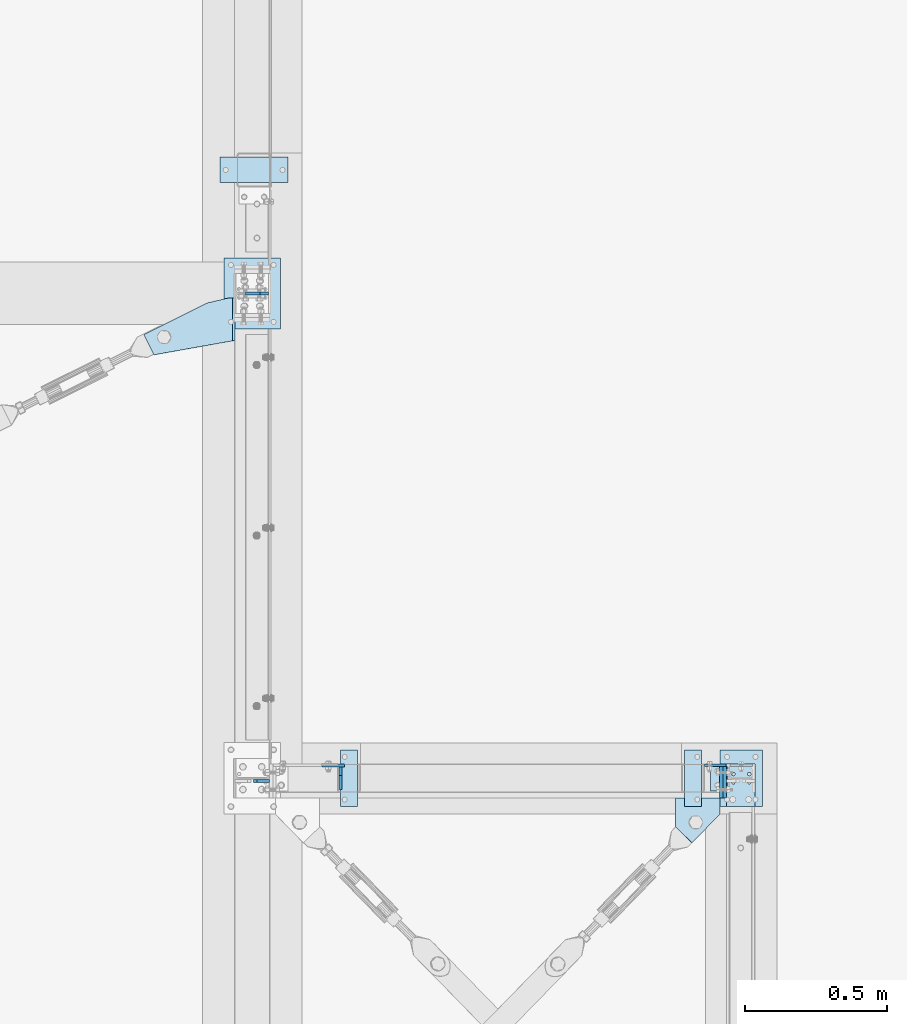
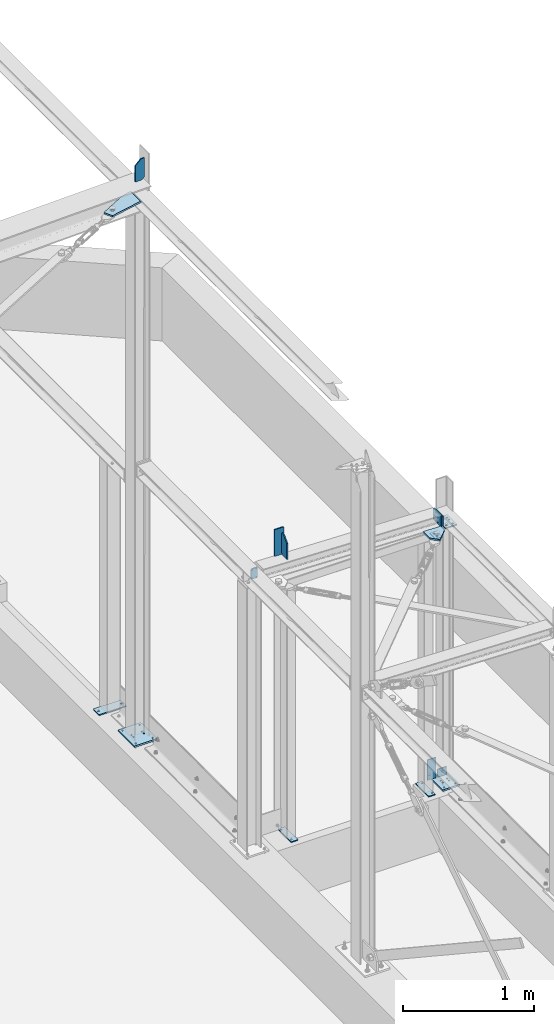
# One storey, part 64 of 476: 17 plates, 56 openings.
"""IFC2X3 building model written with IfcOpenShell, lengths in millimetres."""

from ifc_helpers import new_model, entity, si_unit, converted_unit, point, frame, frame_2d, origin, origin_with_axes, origin_2d_with_axis, place, context, project, spatial, polyline, circle_curve, line_curve, trimmed, segment, composite_curve, circle, outline, extrude, material, layer, layer_set, element, save


model = new_model("IFC2X3")

# Units and contexts
model_context = context("Model", 3, precision=1e-09, world=origin_with_axes())
ifc_project = project(units=[si_unit("LENGTHUNIT", "METRE", prefix="MILLI"), si_unit("AREAUNIT", "SQUARE_METRE"), si_unit("VOLUMEUNIT", "CUBIC_METRE"), converted_unit("PLANEANGLEUNIT", "DEGREE", entity("IfcPlaneAngleMeasure", 0.01745329), si_unit("PLANEANGLEUNIT", "RADIAN"), dimensions=[0, 0, 0, 0, 0, 0, 0])], contexts=[model_context])

# Site, building, storey
site_placement = place(None, origin_with_axes())
site = spatial("IfcSite", under=ifc_project, at=site_placement, Name="mKR Teilneubau & Sanierung BA1 - Ostfildern", CompositionType="ELEMENT")
building_placement = place(site_placement, origin_with_axes())
building = spatial("IfcBuilding", under=site, at=building_placement, Name="Struktur 1", CompositionType="ELEMENT")
storey_placement = place(building_placement, origin_with_axes())
storey = spatial("IfcBuildingStorey", under=building, at=storey_placement, Name="Default Storey", CompositionType="ELEMENT", Elevation=0.0)

# Plate, openings
ifc_material = material(Name="S235JR")
ifc_layer_1 = layer(ifc_material, 15.0)
ifc_layer_set_1 = layer_set([ifc_layer_1], Name="S235JR")
plate_1_placement = place(None, frame((21903.923471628, -2528.919954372, 5627.15896923), z_axis=(-0.030019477, 0.0, 0.999549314), x_axis=(-0.999549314, 0.0, -0.030019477)))
plate_1 = element("IfcPlate", 1, at=plate_1_placement, inside=storey, material=ifc_layer_set_1, Name="-", ObjectType="-", context=model_context, shape_type="SweptSolid", body=[
    extrude(outline(polyline([(0.0, 0.0), (60.928430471, 0.0), (320.162470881, 129.005250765), (284.520294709, 200.626722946), (1e-09, 150.0), (0.0, 0.0)])), origin_with_axes(), (0.0, 0.0, -1.0), 15.0),
])
opening_1_placement = place(plate_1_placement, frame((0.0, -0.001, 0.0), z_axis=(0.0, 1.0, 0.0), x_axis=(1.0, 0.0, 0.0)))
element("IfcOpeningElement", 2, at=opening_1_placement, cuts=plate_1, ObjectType="Opening", context=model_context, shape_type="SweptSolid", body=[
    extrude(outline(polyline([(0.0, 0.0), (8.0, 0.0), (0.0, 8.0), (0.0, 0.0)])), origin(), (0.0, 0.0, 1.0), 151.445496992),
])
opening_2_placement = place(plate_1_placement, frame((60.928430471, 0.0, 0.01), z_axis=(0.0, 0.0, 1.0), x_axis=(0.895270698, 0.445522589, 0.0)))
element("IfcOpeningElement", 3, at=opening_2_placement, cuts=plate_1, ObjectType="Opening", context=model_context, shape_type="SweptSolid", body=[
    extrude(outline(composite_curve([segment(trimmed(line_curve((0.0, 0.0), (1.0, 0.0), 41.13737061), [point((0.0, 0.0))], [point((41.13737061, 0.0))], True, "CARTESIAN"), True, "CONTINUOUS"), segment(trimmed(circle_curve(frame_2d((41.13737061, 175.0), x_axis=(-1.0, 0.0)), 175.0), [point((41.13737061, 0.0))], [point((-36.829082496, 18.327627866))], False, "CARTESIAN"), True, "CONTINUOUS"), segment(trimmed(line_curve((-36.829082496, 18.327627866), (0.895270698, -0.445522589), 41.13737061), [point((-36.829082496, 18.327627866))], [point((0.0, 0.0))], True, "CARTESIAN"), True, "CONTINUOUS")], self_intersect=False)), origin(), (0.0, 0.0, -1.0), 15.02),
])
opening_3_placement = place(plate_1_placement, frame((248.62761309, 138.086147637, -15.499690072), z_axis=(2.2474e-05, 0.0, 1.0), x_axis=(0.895271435, 0.445521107, -2.0121e-05)))
element("IfcOpeningElement", 4, at=opening_3_placement, cuts=plate_1, ObjectType="Opening", context=model_context, shape_type="SweptSolid", body=[
    extrude(circle(Radius=14.501, at=origin_2d_with_axis()), origin(), (0.0, 0.0, 1.0), 16.000000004),
])

plate_2_placement = place(None, frame((23454.614413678, -4288.67387897, 2967.690873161), z_axis=(-0.029057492, 0.0, -0.999577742), x_axis=(0.999577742, 0.0, -0.029057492)))
plate_2 = element("IfcPlate", 5, at=plate_2_placement, inside=storey, material=ifc_layer_set_1, Name="-", ObjectType="-", context=model_context, shape_type="SweptSolid", body=[
    extrude(outline(polyline([(0.0, 0.0), (155.058825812, 0.0), (155.058825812, 57.239054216), (57.223526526, 157.380225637), (0.0, 101.474340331), (0.0, 0.0)])), origin_with_axes(), (0.0, 0.0, -1.0), 15.0),
])
opening_4_placement = place(plate_2_placement, frame((155.059825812, 0.0, 0.0), z_axis=(-1.0, 0.0, 0.0), x_axis=(0.0, 1.0, 0.0)))
element("IfcOpeningElement", 6, at=opening_4_placement, cuts=plate_2, ObjectType="Opening", context=model_context, shape_type="SweptSolid", body=[
    extrude(outline(polyline([(0.0, 0.0), (8.0, 0.0), (0.0, 8.0), (0.0, 0.0)])), origin(), (0.0, 0.0, 1.0), 155.080825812),
])
opening_5_placement = place(plate_2_placement, frame((70.610420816, 70.850528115, 0.5), z_axis=(0.0, 0.0, 1.0), x_axis=(1.0, 0.0, 0.0)))
element("IfcOpeningElement", 7, at=opening_5_placement, cuts=plate_2, ObjectType="Opening", context=model_context, shape_type="SweptSolid", body=[
    extrude(circle(Radius=14.501, at=frame_2d((0.0, 14.501), x_axis=(1.0, 0.0))), origin(), (0.0, 0.0, -1.0), 16.0),
])

ifc_layer_2 = layer(ifc_material, 10.0)
ifc_layer_set_2 = layer_set([ifc_layer_2], Name="S235JR")
plate_3_placement = place(None, frame((21942.108764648, -2508.420954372, 5888.306606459), z_axis=(0.0, 1.0, 0.0), x_axis=(1.0, 0.0, 0.0)))
plate_3 = element("IfcPlate", 8, at=plate_3_placement, inside=storey, material=ifc_layer_set_2, Name="-", ObjectType="-", context=model_context, shape_type="SweptSolid", body=[
    extrude(outline(polyline([(0.0, 0.0), (80.0, 0.0), (80.0, 197.595559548), (0.0, 200.0), (0.0, 0.0)])), origin_with_axes(), (0.0, 0.0, -1.0), 10.0),
])
opening_6_placement = place(plate_3_placement, frame((0.0, 0.0, 0.01), z_axis=(0.0, 0.0, 1.0), x_axis=(1.0, 0.0, 0.0)))
element("IfcOpeningElement", 9, at=opening_6_placement, cuts=plate_3, ObjectType="Opening", context=model_context, shape_type="SweptSolid", body=[
    extrude(outline(polyline([(0.0, 0.0), (50.0, 0.0), (0.0, 50.0), (0.0, 0.0)])), origin(), (0.0, 0.0, -1.0), 10.02),
])
opening_7_placement = place(plate_3_placement, frame((80.0, 197.595559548, 0.01), z_axis=(0.0, 0.0, 1.0), x_axis=(-0.999548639, 0.03004194, 0.0)))
element("IfcOpeningElement", 10, at=opening_7_placement, cuts=plate_3, ObjectType="Opening", context=model_context, shape_type="SweptSolid", body=[
    extrude(outline(polyline([(0.0, 0.0), (20.0, 0.0), (-0.600838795, 19.990972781), (0.0, 0.0)])), origin(), (0.0, 0.0, -1.0), 10.02),
])

plate_4_placement = place(None, frame((22270.607764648, -4258.67387897, 3316.157828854), z_axis=(-1.0, 0.0, 0.0), x_axis=(0.0, 1.0, 0.0)))
plate_4 = element("IfcPlate", 11, at=plate_4_placement, inside=storey, material=ifc_layer_set_2, Name="-", ObjectType="-", context=model_context, shape_type="SweptSolid", body=[
    extrude(outline(polyline([(0.0, 0.0), (80.0, 0.0), (80.0, 200.0), (0.0, 200.0), (0.0, 0.0)])), origin_with_axes(), (0.0, 0.0, -1.0), 10.0),
])
opening_8_placement = place(plate_4_placement, frame((0.0, 0.0, 0.01), z_axis=(0.0, 0.0, 1.0), x_axis=(1.0, 0.0, 0.0)))
element("IfcOpeningElement", 12, at=opening_8_placement, cuts=plate_4, ObjectType="Opening", context=model_context, shape_type="SweptSolid", body=[
    extrude(outline(polyline([(0.0, 0.0), (50.0, 0.0), (0.0, 50.0), (0.0, 0.0)])), origin(), (0.0, 0.0, -1.0), 10.02),
])
opening_9_placement = place(plate_4_placement, frame((80.0, 200.0, 0.01), z_axis=(0.0, 0.0, 1.0), x_axis=(-1.0, 0.0, 0.0)))
element("IfcOpeningElement", 13, at=opening_9_placement, cuts=plate_4, ObjectType="Opening", context=model_context, shape_type="SweptSolid", body=[
    extrude(outline(polyline([(0.0, 0.0), (20.0, 0.0), (0.0, 20.0), (0.0, 0.0)])), origin(), (0.0, 0.0, -1.0), 10.02),
])

plate_5_placement = place(None, frame((22335.607764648, -4118.67387897, 525.0), z_axis=(0.0, 0.0, 1.0), x_axis=(-1.0, 0.0, 0.0)))
plate_5 = element("IfcPlate", 14, at=plate_5_placement, inside=storey, material=ifc_layer_set_2, Name="Baseplate", ObjectType="Baseplate", context=model_context, shape_type="SweptSolid", body=[
    extrude(outline(polyline([(0.0, 0.0), (60.0, 0.0), (60.0, 200.0), (0.0, 200.0), (0.0, 0.0)])), origin_with_axes(), (0.0, 0.0, -1.0), 10.0),
])
opening_10_placement = place(plate_5_placement, frame((38.999, 25.0, -10.5), z_axis=(0.0, 0.0, -1.0), x_axis=(-1.0, 0.0, 0.0)))
element("IfcOpeningElement", 15, at=opening_10_placement, cuts=plate_5, ObjectType="Opening", context=model_context, shape_type="SweptSolid", body=[
    extrude(circle(Radius=6.001, at=frame_2d((-6.001, 0.0), x_axis=(1.0, 0.0))), origin(), (0.0, 0.0, -1.0), 11.0),
])
opening_11_placement = place(plate_5_placement, frame((38.999, 175.0, -10.5), z_axis=(0.0, 0.0, -1.0), x_axis=(-1.0, 0.0, 0.0)))
element("IfcOpeningElement", 16, at=opening_11_placement, cuts=plate_5, ObjectType="Opening", context=model_context, shape_type="SweptSolid", body=[
    extrude(circle(Radius=6.001, at=frame_2d((-6.001, 0.0), x_axis=(1.0, 0.0))), origin(), (0.0, 0.0, -1.0), 11.0),
])

ifc_layer_3 = layer(ifc_material, 12.0)
ifc_layer_set_3 = layer_set([ifc_layer_3], Name="S235JR")
plate_6_placement = place(None, frame((23683.608764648, -4243.67387897, 2958.0), z_axis=(0.0, 0.0, 1.0), x_axis=(-1.0, 0.0, 0.0)))
plate_6 = element("IfcPlate", 17, at=plate_6_placement, inside=storey, material=ifc_layer_set_3, Name="Endplate", ObjectType="Endplate", context=model_context, shape_type="SweptSolid", body=[
    extrude(outline(polyline([(-50.0, -75.0), (50.0, -75.0), (50.0, 75.0), (-50.0, 75.0), (-50.0, -75.0)])), origin_with_axes(), (0.0, 0.0, 1.0), 12.0),
])
opening_12_placement = place(plate_6_placement, frame((26.0, -39.5, 12.5), z_axis=(0.0, 0.0, -1.0), x_axis=(1.0, 0.0, 0.0)))
element("IfcOpeningElement", 18, at=opening_12_placement, cuts=plate_6, ObjectType="Opening", context=model_context, shape_type="SweptSolid", body=[
    extrude(circle(Radius=6.001, at=origin_2d_with_axis()), origin(), (0.0, 0.0, 1.0), 13.0),
])
opening_13_placement = place(plate_6_placement, frame((-30.0, -39.5, 12.5), z_axis=(0.0, 0.0, -1.0), x_axis=(1.0, 0.0, 0.0)))
element("IfcOpeningElement", 19, at=opening_13_placement, cuts=plate_6, ObjectType="Opening", context=model_context, shape_type="SweptSolid", body=[
    extrude(circle(Radius=6.001, at=origin_2d_with_axis()), origin(), (0.0, 0.0, 1.0), 13.0),
])
opening_14_placement = place(plate_6_placement, frame((-30.0, -10.5, 12.5), z_axis=(0.0, 0.0, -1.0), x_axis=(1.0, 0.0, 0.0)))
element("IfcOpeningElement", 20, at=opening_14_placement, cuts=plate_6, ObjectType="Opening", context=model_context, shape_type="SweptSolid", body=[
    extrude(circle(Radius=6.001, at=origin_2d_with_axis()), origin(), (0.0, 0.0, 1.0), 13.0),
])
opening_15_placement = place(plate_6_placement, frame((26.0, -10.5, 12.5), z_axis=(0.0, 0.0, -1.0), x_axis=(1.0, 0.0, 0.0)))
element("IfcOpeningElement", 21, at=opening_15_placement, cuts=plate_6, ObjectType="Opening", context=model_context, shape_type="SweptSolid", body=[
    extrude(circle(Radius=6.001, at=origin_2d_with_axis()), origin(), (0.0, 0.0, 1.0), 13.0),
])
opening_16_placement = place(plate_6_placement, frame((-50.0, 25.001, 0.0), z_axis=(0.0, -1.0, 0.0), x_axis=(1.0, 0.0, 0.0)))
element("IfcOpeningElement", 22, at=opening_16_placement, cuts=plate_6, ObjectType="Opening", context=model_context, shape_type="SweptSolid", body=[
    extrude(outline(polyline([(0.0, 0.0), (4.0, 0.0), (0.0, 4.0), (0.0, 0.0)])), origin(), (0.0, 0.0, 1.0), 100.022),
])
opening_17_placement = place(plate_6_placement, frame((28.0, 42.999, -0.5), z_axis=(0.0, 0.0, -1.0), x_axis=(-1.0, 0.0, 0.0)))
element("IfcOpeningElement", 23, at=opening_17_placement, cuts=plate_6, ObjectType="Opening", context=model_context, shape_type="SweptSolid", body=[
    extrude(circle(Radius=7.001, at=frame_2d((0.0, 7.001), x_axis=(1.0, 0.0))), origin(), (0.0, 0.0, -1.0), 13.0),
])
opening_18_placement = place(plate_6_placement, frame((-28.0, 42.999, -0.5), z_axis=(0.0, 0.0, -1.0), x_axis=(-1.0, 0.0, 0.0)))
element("IfcOpeningElement", 24, at=opening_18_placement, cuts=plate_6, ObjectType="Opening", context=model_context, shape_type="SweptSolid", body=[
    extrude(circle(Radius=7.001, at=frame_2d((0.0, 7.001), x_axis=(1.0, 0.0))), origin(), (0.0, 0.0, -1.0), 13.0),
])

# Plate, opening
ifc_layer_4 = layer(ifc_material, 8.0)
ifc_layer_set_4 = layer_set([ifc_layer_4], Name="S235JR")
plate_7_placement = place(None, frame((23594.109264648, -4176.67387897, 655.0), z_axis=(0.0, 1.0, 0.0), x_axis=(-1.0, 0.0, 0.0)))
plate_7 = element("IfcPlate", 25, at=plate_7_placement, inside=storey, material=ifc_layer_set_4, Name="-", ObjectType="-", context=model_context, shape_type="SweptSolid", body=[
    extrude(outline(polyline([(-38.4995, -95.0), (38.4995, -95.0), (38.4995, 95.0), (-38.4995, 95.0), (-38.4995, -95.0)])), origin_with_axes(), (0.0, 0.0, 1.0), 8.0),
])
opening_19_placement = place(plate_7_placement, frame((20.0, -47.0, -0.5), z_axis=(0.0, 0.0, 1.0), x_axis=(1.0, 0.0, 0.0)))
element("IfcOpeningElement", 26, at=opening_19_placement, cuts=plate_7, ObjectType="Opening", context=model_context, shape_type="SweptSolid", body=[
    extrude(circle(Radius=7.001, at=origin_2d_with_axis()), origin(), (0.0, 0.0, 1.0), 9.0),
])

# Plate
plate_8_placement = place(None, frame((22290.607764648, -4168.67387897, 3365.576433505), z_axis=(0.0, -1.0, 0.0), x_axis=(-1.0, 0.0, 0.0)))
element("IfcPlate", 27, at=plate_8_placement, inside=storey, material=ifc_layer_set_2, Name="-", ObjectType="-", context=model_context, shape_type="SweptSolid", body=[
    extrude(outline(polyline([(0.0, 0.0), (80.0, 0.0), (80.0, 247.674418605), (0.0, 250.0), (0.0, 0.0)])), origin_with_axes(), (0.0, 0.0, 1.0), 10.0),
])

# Plate, opening
plate_9_placement = place(None, frame((23685.608764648, -4176.67387897, 1749.0), z_axis=(0.0, 1.0, 0.0), x_axis=(-1.0, 0.0, 0.0)))
plate_9 = element("IfcPlate", 28, at=plate_9_placement, inside=storey, material=ifc_layer_set_4, Name="-", ObjectType="-", context=model_context, shape_type="SweptSolid", body=[
    extrude(outline(polyline([(-39.0, -1116.0), (-39.0, -1189.0), (39.0, -1189.0), (39.0, -1116.0), (-39.0, -1116.0)])), origin_with_axes(), (0.0, 0.0, 1.0), 8.0),
])
opening_20_placement = place(plate_9_placement, frame((0.0, -1141.0, -0.5), z_axis=(0.0, 0.0, 1.0), x_axis=(1.0, 0.0, 0.0)))
element("IfcOpeningElement", 29, at=opening_20_placement, cuts=plate_9, ObjectType="Opening", context=model_context, shape_type="SweptSolid", body=[
    extrude(circle(Radius=7.001, at=origin_2d_with_axis()), origin(), (0.0, 0.0, 1.0), 9.0),
])

# Plate, openings
plate_10_placement = place(None, frame((22065.608764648, -2388.420954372, 540.0), z_axis=(0.0, 0.0, -1.0), x_axis=(0.0, -1.0, 0.0)))
plate_10 = element("IfcPlate", 30, at=plate_10_placement, inside=storey, material=ifc_layer_set_1, Name="Baseplate", ObjectType="Baseplate", context=model_context, shape_type="SweptSolid", body=[
    extrude(outline(polyline([(0.0, 0.0), (250.0, 0.0), (250.0, 200.0), (0.0, 200.0), (0.0, 0.0)])), origin_with_axes(), (0.0, 0.0, 1.0), 15.0),
])
opening_21_placement = place(plate_10_placement, frame((110.25, 146.0, 15.5), z_axis=(0.0, 0.0, -1.0), x_axis=(0.0, -1.0, 0.0)))
element("IfcOpeningElement", 31, at=opening_21_placement, cuts=plate_10, ObjectType="Opening", context=model_context, shape_type="SweptSolid", body=[
    extrude(circle(Radius=6.001, at=origin_2d_with_axis()), origin(), (0.0, 0.0, 1.0), 16.0),
])
opening_22_placement = place(plate_10_placement, frame((110.25, 54.0, 15.5), z_axis=(0.0, 0.0, -1.0), x_axis=(0.0, -1.0, 0.0)))
element("IfcOpeningElement", 32, at=opening_22_placement, cuts=plate_10, ObjectType="Opening", context=model_context, shape_type="SweptSolid", body=[
    extrude(circle(Radius=6.001, at=origin_2d_with_axis()), origin(), (0.0, 0.0, 1.0), 16.0),
])
opening_23_placement = place(plate_10_placement, frame((139.75, 54.0, 15.5), z_axis=(0.0, 0.0, -1.0), x_axis=(0.0, -1.0, 0.0)))
element("IfcOpeningElement", 33, at=opening_23_placement, cuts=plate_10, ObjectType="Opening", context=model_context, shape_type="SweptSolid", body=[
    extrude(circle(Radius=6.001, at=origin_2d_with_axis()), origin(), (0.0, 0.0, 1.0), 16.0),
])
opening_24_placement = place(plate_10_placement, frame((139.75, 146.0, 15.5), z_axis=(0.0, 0.0, -1.0), x_axis=(0.0, -1.0, 0.0)))
element("IfcOpeningElement", 34, at=opening_24_placement, cuts=plate_10, ObjectType="Opening", context=model_context, shape_type="SweptSolid", body=[
    extrude(circle(Radius=6.001, at=origin_2d_with_axis()), origin(), (0.0, 0.0, 1.0), 16.0),
])
opening_25_placement = place(plate_10_placement, frame((125.0, 100.0, 15.5), z_axis=(0.0, 0.0, -1.0), x_axis=(1.0, 0.0, 0.0)))
element("IfcOpeningElement", 35, at=opening_25_placement, cuts=plate_10, ObjectType="Opening", context=model_context, shape_type="SweptSolid", body=[
    extrude(circle(Radius=6.001, at=frame_2d((100.0, 75.0), x_axis=(1.0, 0.0))), origin(), (0.0, 0.0, 1.0), 16.0),
])
opening_26_placement = place(plate_10_placement, frame((125.0, 100.0, 15.5), z_axis=(0.0, 0.0, -1.0), x_axis=(1.0, 0.0, 0.0)))
element("IfcOpeningElement", 36, at=opening_26_placement, cuts=plate_10, ObjectType="Opening", context=model_context, shape_type="SweptSolid", body=[
    extrude(circle(Radius=6.001, at=frame_2d((-100.0, 75.0), x_axis=(1.0, 0.0))), origin(), (0.0, 0.0, 1.0), 16.0),
])
opening_27_placement = place(plate_10_placement, frame((125.0, 100.0, 15.5), z_axis=(0.0, 0.0, -1.0), x_axis=(1.0, 0.0, 0.0)))
element("IfcOpeningElement", 37, at=opening_27_placement, cuts=plate_10, ObjectType="Opening", context=model_context, shape_type="SweptSolid", body=[
    extrude(circle(Radius=6.001, at=frame_2d((100.0, -75.0), x_axis=(1.0, 0.0))), origin(), (0.0, 0.0, 1.0), 16.0),
])
opening_28_placement = place(plate_10_placement, frame((125.0, 100.0, 15.5), z_axis=(0.0, 0.0, -1.0), x_axis=(1.0, 0.0, 0.0)))
element("IfcOpeningElement", 38, at=opening_28_placement, cuts=plate_10, ObjectType="Opening", context=model_context, shape_type="SweptSolid", body=[
    extrude(circle(Radius=6.001, at=frame_2d((-100.0, -75.0), x_axis=(1.0, 0.0))), origin(), (0.0, 0.0, 1.0), 16.0),
])

plate_11_placement = place(None, frame((23607.608764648, -4218.67387897, 2845.0), z_axis=(0.0, 0.0, 1.0), x_axis=(-1.0, 0.0, 0.0)))
plate_11 = element("IfcPlate", 39, at=plate_11_placement, inside=storey, material=ifc_layer_set_2, Name="-", ObjectType="-", context=model_context, shape_type="SweptSolid", body=[
    extrude(outline(polyline([(-30.0, -45.0), (30.0, -45.0), (30.0, 45.0), (-30.0, 45.0), (-30.0, -45.0)])), origin_with_axes(), (0.0, 0.0, 1.0), 10.0),
])
opening_29_placement = place(plate_11_placement, frame((5.0, 0.0, -0.5), z_axis=(0.0, 0.0, 1.0), x_axis=(1.0, 0.0, 0.0)))
element("IfcOpeningElement", 40, at=opening_29_placement, cuts=plate_11, ObjectType="Opening", context=model_context, shape_type="SweptSolid", body=[
    extrude(circle(Radius=7.001, at=frame_2d((0.0, 25.0), x_axis=(1.0, 0.0))), origin(), (0.0, 0.0, 1.0), 11.0),
])
opening_30_placement = place(plate_11_placement, frame((5.0, 0.0, -0.5), z_axis=(0.0, 0.0, 1.0), x_axis=(1.0, 0.0, 0.0)))
element("IfcOpeningElement", 41, at=opening_30_placement, cuts=plate_11, ObjectType="Opening", context=model_context, shape_type="SweptSolid", body=[
    extrude(circle(Radius=7.001, at=frame_2d((0.0, -25.0), x_axis=(1.0, 0.0))), origin(), (0.0, 0.0, 1.0), 11.0),
])

plate_12_placement = place(None, frame((23485.609764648, -4118.67387897, 525.0), z_axis=(0.0, 0.0, -1.0), x_axis=(1.0, 0.0, 0.0)))
plate_12 = element("IfcPlate", 42, at=plate_12_placement, inside=storey, material=ifc_layer_set_2, Name="Baseplate", ObjectType="Baseplate", context=model_context, shape_type="SweptSolid", body=[
    extrude(outline(polyline([(0.0, 0.0), (60.0, 0.0), (60.0, 200.0), (0.0, 200.0), (0.0, 0.0)])), origin_with_axes(), (0.0, 0.0, 1.0), 10.0),
])
opening_31_placement = place(plate_12_placement, frame((45.0, 100.0, 10.5), z_axis=(0.0, 0.0, -1.0), x_axis=(1.0, 0.0, 0.0)))
element("IfcOpeningElement", 43, at=opening_31_placement, cuts=plate_12, ObjectType="Opening", context=model_context, shape_type="SweptSolid", body=[
    extrude(circle(Radius=6.001, at=frame_2d((0.0, 75.0), x_axis=(1.0, 0.0))), origin(), (0.0, 0.0, 1.0), 11.0),
])
opening_32_placement = place(plate_12_placement, frame((45.0, 100.0, 10.5), z_axis=(0.0, 0.0, -1.0), x_axis=(1.0, 0.0, 0.0)))
element("IfcOpeningElement", 44, at=opening_32_placement, cuts=plate_12, ObjectType="Opening", context=model_context, shape_type="SweptSolid", body=[
    extrude(circle(Radius=6.001, at=frame_2d((0.0, -75.0), x_axis=(1.0, 0.0))), origin(), (0.0, 0.0, 1.0), 11.0),
])

plate_13_placement = place(None, frame((22092.108734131, -2034.104698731, 525.0), z_axis=(0.0, 0.0, -1.0), x_axis=(0.0, -1.0, 0.0)))
plate_13 = element("IfcPlate", 45, at=plate_13_placement, inside=storey, material=ifc_layer_set_2, Name="Baseplate", ObjectType="Baseplate", context=model_context, shape_type="SweptSolid", body=[
    extrude(outline(polyline([(0.0, 0.0), (90.0, 0.0), (90.0, 240.0), (0.0, 240.0), (0.0, 0.0)])), origin_with_axes(), (0.0, 0.0, 1.0), 10.0),
])
opening_33_placement = place(plate_13_placement, frame((45.0, 120.0, 10.5), z_axis=(0.0, 0.0, -1.0), x_axis=(1.0, 0.0, 0.0)))
element("IfcOpeningElement", 46, at=opening_33_placement, cuts=plate_13, ObjectType="Opening", context=model_context, shape_type="SweptSolid", body=[
    extrude(circle(Radius=7.001, at=frame_2d((0.0, 100.0), x_axis=(1.0, 0.0))), origin(), (0.0, 0.0, 1.0), 11.0),
])
opening_34_placement = place(plate_13_placement, frame((45.0, 120.0, 10.5), z_axis=(0.0, 0.0, -1.0), x_axis=(1.0, 0.0, 0.0)))
element("IfcOpeningElement", 47, at=opening_34_placement, cuts=plate_13, ObjectType="Opening", context=model_context, shape_type="SweptSolid", body=[
    extrude(circle(Radius=7.001, at=frame_2d((0.0, -100.0), x_axis=(1.0, 0.0))), origin(), (0.0, 0.0, 1.0), 11.0),
])

plate_14_placement = place(None, frame((23760.608764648, -4118.67387897, 540.0), z_axis=(0.0, 0.0, -1.0), x_axis=(0.0, -1.0, 0.0)))
plate_14 = element("IfcPlate", 48, at=plate_14_placement, inside=storey, material=ifc_layer_set_1, Name="Baseplate", ObjectType="Baseplate", context=model_context, shape_type="SweptSolid", body=[
    extrude(outline(polyline([(0.0, 0.0), (200.0, 0.0), (200.0, 150.0), (0.0, 150.0), (0.0, 0.0)])), origin_with_axes(), (0.0, 0.0, 1.0), 15.0),
])
opening_35_placement = place(plate_14_placement, frame((85.5, 103.0, 15.5), z_axis=(0.0, 0.0, -1.0), x_axis=(0.0, -1.0, 0.0)))
element("IfcOpeningElement", 49, at=opening_35_placement, cuts=plate_14, ObjectType="Opening", context=model_context, shape_type="SweptSolid", body=[
    extrude(circle(Radius=6.001, at=origin_2d_with_axis()), origin(), (0.0, 0.0, 1.0), 16.0),
])
opening_36_placement = place(plate_14_placement, frame((85.5, 47.0, 15.5), z_axis=(0.0, 0.0, -1.0), x_axis=(0.0, -1.0, 0.0)))
element("IfcOpeningElement", 50, at=opening_36_placement, cuts=plate_14, ObjectType="Opening", context=model_context, shape_type="SweptSolid", body=[
    extrude(circle(Radius=6.001, at=origin_2d_with_axis()), origin(), (0.0, 0.0, 1.0), 16.0),
])
opening_37_placement = place(plate_14_placement, frame((114.5, 47.0, 15.5), z_axis=(0.0, 0.0, -1.0), x_axis=(0.0, -1.0, 0.0)))
element("IfcOpeningElement", 51, at=opening_37_placement, cuts=plate_14, ObjectType="Opening", context=model_context, shape_type="SweptSolid", body=[
    extrude(circle(Radius=6.001, at=origin_2d_with_axis()), origin(), (0.0, 0.0, 1.0), 16.0),
])
opening_38_placement = place(plate_14_placement, frame((114.5, 103.0, 15.5), z_axis=(0.0, 0.0, -1.0), x_axis=(0.0, -1.0, 0.0)))
element("IfcOpeningElement", 52, at=opening_38_placement, cuts=plate_14, ObjectType="Opening", context=model_context, shape_type="SweptSolid", body=[
    extrude(circle(Radius=6.001, at=origin_2d_with_axis()), origin(), (0.0, 0.0, 1.0), 16.0),
])
opening_39_placement = place(plate_14_placement, frame((100.0, 75.0, 15.5), z_axis=(0.0, 0.0, -1.0), x_axis=(1.0, 0.0, 0.0)))
element("IfcOpeningElement", 53, at=opening_39_placement, cuts=plate_14, ObjectType="Opening", context=model_context, shape_type="SweptSolid", body=[
    extrude(circle(Radius=6.001, at=frame_2d((75.0, 50.0), x_axis=(1.0, 0.0))), origin(), (0.0, 0.0, 1.0), 16.0),
])
opening_40_placement = place(plate_14_placement, frame((100.0, 75.0, 15.5), z_axis=(0.0, 0.0, -1.0), x_axis=(1.0, 0.0, 0.0)))
element("IfcOpeningElement", 54, at=opening_40_placement, cuts=plate_14, ObjectType="Opening", context=model_context, shape_type="SweptSolid", body=[
    extrude(circle(Radius=6.001, at=frame_2d((-75.0, 50.0), x_axis=(1.0, 0.0))), origin(), (0.0, 0.0, 1.0), 16.0),
])
opening_41_placement = place(plate_14_placement, frame((100.0, 75.0, 15.5), z_axis=(0.0, 0.0, -1.0), x_axis=(1.0, 0.0, 0.0)))
element("IfcOpeningElement", 55, at=opening_41_placement, cuts=plate_14, ObjectType="Opening", context=model_context, shape_type="SweptSolid", body=[
    extrude(circle(Radius=6.001, at=frame_2d((75.0, -50.0), x_axis=(1.0, 0.0))), origin(), (0.0, 0.0, 1.0), 16.0),
])
opening_42_placement = place(plate_14_placement, frame((100.0, 75.0, 15.5), z_axis=(0.0, 0.0, -1.0), x_axis=(1.0, 0.0, 0.0)))
element("IfcOpeningElement", 56, at=opening_42_placement, cuts=plate_14, ObjectType="Opening", context=model_context, shape_type="SweptSolid", body=[
    extrude(circle(Radius=6.001, at=frame_2d((-75.0, -50.0), x_axis=(1.0, 0.0))), origin(), (0.0, 0.0, 1.0), 16.0),
])

plate_15_placement = place(None, frame((23609.608764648, -4228.67387897, 3020.209302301), z_axis=(1.0, 0.0, 0.0), x_axis=(0.0, 0.0, -1.0)))
plate_15 = element("IfcPlate", 57, at=plate_15_placement, inside=storey, material=ifc_layer_set_3, Name="Endplate#1", ObjectType="Endplate#1", context=model_context, shape_type="SweptSolid", body=[
    extrude(outline(polyline([(-52.024078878, -60.0), (52.024078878, -60.0), (52.024078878, 60.0), (-52.024078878, 60.0), (-52.024078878, -60.0)])), origin_with_axes(), (0.0, 0.0, 1.0), 12.0),
])
opening_43_placement = place(plate_15_placement, frame((-37.020699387, -14.5, 12.5), z_axis=(0.0, 0.0, -1.0), x_axis=(1.0, 0.0, 0.0)))
element("IfcOpeningElement", 58, at=opening_43_placement, cuts=plate_15, ObjectType="Opening", context=model_context, shape_type="SweptSolid", body=[
    extrude(circle(Radius=6.001, at=origin_2d_with_axis()), origin(), (0.0, 0.0, 1.0), 13.0),
])
opening_44_placement = place(plate_15_placement, frame((37.020699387, -14.5, 12.5), z_axis=(0.0, 0.0, -1.0), x_axis=(1.0, 0.0, 0.0)))
element("IfcOpeningElement", 59, at=opening_44_placement, cuts=plate_15, ObjectType="Opening", context=model_context, shape_type="SweptSolid", body=[
    extrude(circle(Radius=6.001, at=origin_2d_with_axis()), origin(), (0.0, 0.0, 1.0), 13.0),
])
opening_45_placement = place(plate_15_placement, frame((37.020699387, 14.5, 12.5), z_axis=(0.0, 0.0, -1.0), x_axis=(1.0, 0.0, 0.0)))
element("IfcOpeningElement", 60, at=opening_45_placement, cuts=plate_15, ObjectType="Opening", context=model_context, shape_type="SweptSolid", body=[
    extrude(circle(Radius=6.001, at=origin_2d_with_axis()), origin(), (0.0, 0.0, 1.0), 13.0),
])
opening_46_placement = place(plate_15_placement, frame((-37.020699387, 14.5, 12.5), z_axis=(0.0, 0.0, -1.0), x_axis=(1.0, 0.0, 0.0)))
element("IfcOpeningElement", 61, at=opening_46_placement, cuts=plate_15, ObjectType="Opening", context=model_context, shape_type="SweptSolid", body=[
    extrude(circle(Radius=6.001, at=origin_2d_with_axis()), origin(), (0.0, 0.0, 1.0), 13.0),
])
opening_47_placement = place(plate_15_placement, frame((0.0, 30.0, 12.5), z_axis=(0.0, 0.0, -1.0), x_axis=(-1.0, 0.0, 0.0)))
element("IfcOpeningElement", 62, at=opening_47_placement, cuts=plate_15, ObjectType="Opening", context=model_context, shape_type="SweptSolid", body=[
    extrude(circle(Radius=7.001, at=origin_2d_with_axis()), origin(), (0.0, 0.0, 1.0), 13.0),
])
opening_48_placement = place(plate_15_placement, frame((0.0, -30.0, 12.5), z_axis=(0.0, 0.0, -1.0), x_axis=(0.0, -1.0, 0.0)))
element("IfcOpeningElement", 63, at=opening_48_placement, cuts=plate_15, ObjectType="Opening", context=model_context, shape_type="SweptSolid", body=[
    extrude(circle(Radius=7.001, at=origin_2d_with_axis()), origin(), (0.0, 0.0, 1.0), 13.0),
])

plate_16_placement = place(None, frame((23633.608764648, -4228.67387897, 3018.0), z_axis=(-1.0, 0.0, 0.0), x_axis=(0.0, -1.0, 0.0)))
plate_16 = element("IfcPlate", 64, at=plate_16_placement, inside=storey, material=ifc_layer_set_3, Name="T-plate", ObjectType="T-plate", context=model_context, shape_type="SweptSolid", body=[
    extrude(outline(polyline([(-60.0, -44.0), (60.0, -44.0), (60.0, 44.0), (-60.0, 44.0), (-60.0, -44.0)])), origin_with_axes(), (0.0, 0.0, 1.0), 12.0),
])
opening_49_placement = place(plate_16_placement, frame((-30.0, 2.209302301, -0.5), z_axis=(0.0, 0.0, 1.0), x_axis=(0.0, 1.0, 0.0)))
element("IfcOpeningElement", 65, at=opening_49_placement, cuts=plate_16, ObjectType="Opening", context=model_context, shape_type="SweptSolid", body=[
    extrude(circle(Radius=7.001, at=origin_2d_with_axis()), origin(), (0.0, 0.0, 1.0), 13.0),
])
opening_50_placement = place(plate_16_placement, frame((30.0, 2.209302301, -0.5), z_axis=(0.0, 0.0, 1.0), x_axis=(1.0, 0.0, 0.0)))
element("IfcOpeningElement", 66, at=opening_50_placement, cuts=plate_16, ObjectType="Opening", context=model_context, shape_type="SweptSolid", body=[
    extrude(circle(Radius=7.001, at=origin_2d_with_axis()), origin(), (0.0, 0.0, 1.0), 13.0),
])

plate_17_placement = place(None, frame((21969.608780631, -4233.67387897, 3116.000017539), z_axis=(0.0, 1.0, 0.0), x_axis=(1.0, 0.0, 0.0)))
plate_17 = element("IfcPlate", 67, at=plate_17_placement, inside=storey, material=ifc_layer_set_2, Name="Stiffener#1", ObjectType="Stiffener#1", context=model_context, shape_type="SweptSolid", body=[
    extrude(outline(polyline([(0.0, 0.0), (56.0, 0.0), (56.0, 96.0), (0.0, 96.0), (0.0, 0.0)])), origin_with_axes(), (0.0, 0.0, 1.0), 10.0),
])
opening_51_placement = place(plate_17_placement, frame((0.0, 0.0, -0.01), z_axis=(0.0, 0.0, 1.0), x_axis=(1.0, 0.0, 0.0)))
element("IfcOpeningElement", 68, at=opening_51_placement, cuts=plate_17, ObjectType="Opening", context=model_context, shape_type="SweptSolid", body=[
    extrude(outline(composite_curve([segment(trimmed(line_curve((0.0, 0.0), (1.0, 0.0), 13.0), [point((0.0, 0.0))], [point((13.0, 0.0))], True, "CARTESIAN"), True, "CONTINUOUS"), segment(trimmed(circle_curve(frame_2d((13.0, 13.0), x_axis=(-1.0, 0.0)), 13.0), [point((13.0, 0.0))], [point((0.0, 13.0))], False, "CARTESIAN"), True, "CONTINUOUS"), segment(trimmed(line_curve((0.0, 13.0), (0.0, -1.0), 13.0), [point((0.0, 13.0))], [point((0.0, 0.0))], True, "CARTESIAN"), True, "CONTINUOUS")], self_intersect=False)), origin(), (0.0, 0.0, 1.0), 10.02),
])
opening_52_placement = place(plate_17_placement, frame((0.0, 0.0, -0.01), z_axis=(0.0, 0.0, 1.0), x_axis=(1.0, 0.0, 0.0)))
element("IfcOpeningElement", 69, at=opening_52_placement, cuts=plate_17, ObjectType="Opening", context=model_context, shape_type="SweptSolid", body=[
    extrude(outline(composite_curve([segment(trimmed(line_curve((0.0, 96.0), (0.0, -1.0), 13.0), [point((0.0, 96.0))], [point((0.0, 83.0))], True, "CARTESIAN"), True, "CONTINUOUS"), segment(trimmed(circle_curve(frame_2d((13.0, 83.0), x_axis=(-1.0, 0.0)), 13.0), [point((0.0, 83.0))], [point((13.0, 96.0))], False, "CARTESIAN"), True, "CONTINUOUS"), segment(trimmed(line_curve((13.0, 96.0), (-1.0, 0.0), 13.0), [point((13.0, 96.0))], [point((0.0, 96.0))], True, "CARTESIAN"), True, "CONTINUOUS")], self_intersect=False)), origin(), (0.0, 0.0, 1.0), 10.02),
])
opening_53_placement = place(plate_17_placement, frame((10.5, 11.0, 10.5), z_axis=(0.0, 0.0, -1.0), x_axis=(0.0, -1.0, 0.0)))
element("IfcOpeningElement", 70, at=opening_53_placement, cuts=plate_17, ObjectType="Opening", context=model_context, shape_type="SweptSolid", body=[
    extrude(circle(Radius=5.001, at=origin_2d_with_axis()), origin(), (0.0, 0.0, 1.0), 11.0),
])
opening_54_placement = place(plate_17_placement, frame((10.5, 85.0, 10.5), z_axis=(0.0, 0.0, -1.0), x_axis=(0.0, -1.0, 0.0)))
element("IfcOpeningElement", 71, at=opening_54_placement, cuts=plate_17, ObjectType="Opening", context=model_context, shape_type="SweptSolid", body=[
    extrude(circle(Radius=5.001, at=origin_2d_with_axis()), origin(), (0.0, 0.0, 1.0), 11.0),
])
opening_55_placement = place(plate_17_placement, frame((48.5, 11.0, 10.5), z_axis=(0.0, 0.0, -1.0), x_axis=(0.0, -1.0, 0.0)))
element("IfcOpeningElement", 72, at=opening_55_placement, cuts=plate_17, ObjectType="Opening", context=model_context, shape_type="SweptSolid", body=[
    extrude(circle(Radius=5.001, at=frame_2d((3.0, 1.0), x_axis=(1.0, 0.0))), origin(), (0.0, 0.0, 1.0), 11.0),
])
opening_56_placement = place(plate_17_placement, frame((48.5, 85.0, 10.5), z_axis=(0.0, 0.0, -1.0), x_axis=(0.0, -1.0, 0.0)))
element("IfcOpeningElement", 73, at=opening_56_placement, cuts=plate_17, ObjectType="Opening", context=model_context, shape_type="SweptSolid", body=[
    extrude(circle(Radius=5.001, at=frame_2d((-3.0, 1.0), x_axis=(1.0, 0.0))), origin(), (0.0, 0.0, 1.0), 11.0),
])

save(model, "model.ifc")
